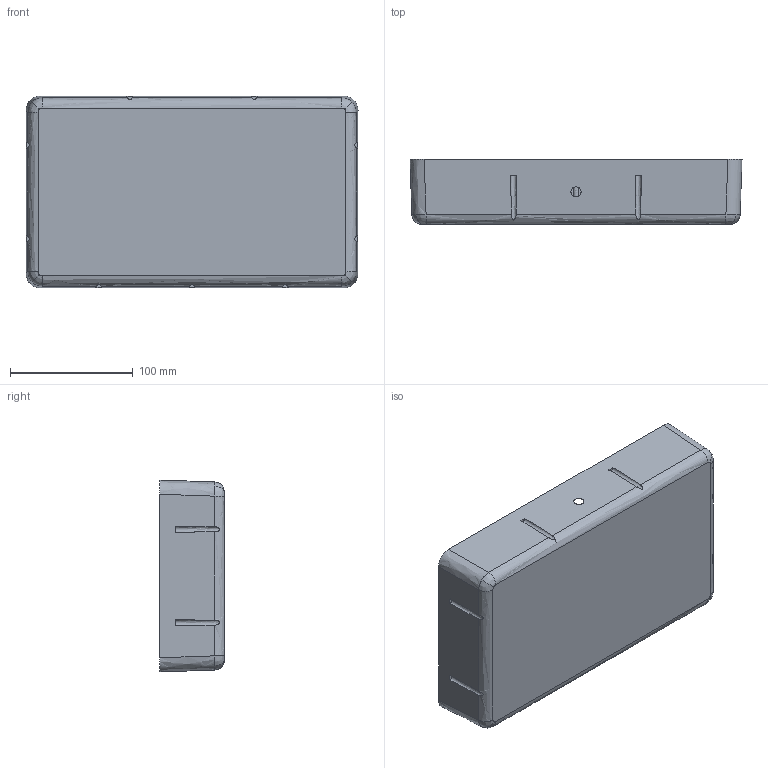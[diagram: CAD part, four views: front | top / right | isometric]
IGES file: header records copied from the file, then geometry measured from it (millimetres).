
Start section: SolidWorks IGES file using analytic representation for surfaces
Global section: file name: C:\Working\1170 OEM and dealer web site\1170 BOTTOM INTERNAL GEOMETRY.IGS; native system: SolidWorks 2007; preprocessor: SolidWorks 2007; author: mhakami; date: 090812.134151; units: inch
Bounding box: 270.76 x 52.83 x 156.46 mm (x, y, z)
Surface area: 82185.9 mm2 (no closed solid volume)
Topology: 0 solids, 0 shells, 39 faces, 679 edges, 679 vertices
Faces by surface type: bspline 22, revolution 17
